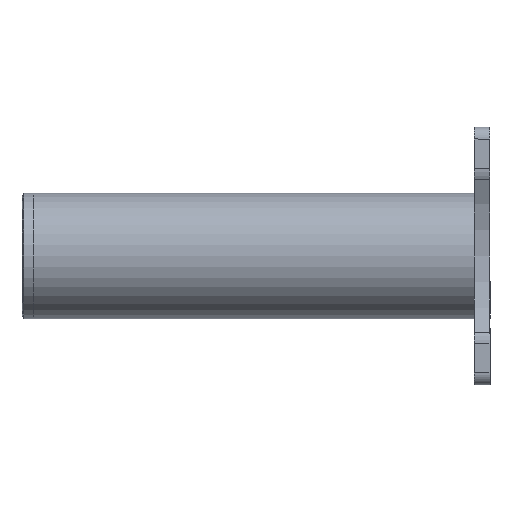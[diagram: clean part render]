
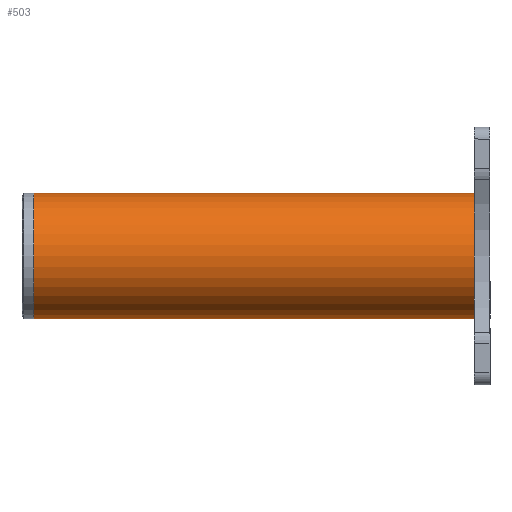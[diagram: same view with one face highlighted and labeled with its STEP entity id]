
A CAD part, left-side view. The second image highlights one B-rep face of the part: STEP entity #503.
In plain terms, the highlighted cylindrical face has radius 50.8 mm (diameter 101.6 mm), a full revolution.
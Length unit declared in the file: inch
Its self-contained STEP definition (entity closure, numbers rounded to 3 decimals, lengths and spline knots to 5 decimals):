
#102 = DIRECTION ( 'NONE',  ( -1., 0., 0. ) ) ;
#187 = ORIENTED_EDGE ( 'NONE', *, *, #969, .F. ) ;
#289 = CARTESIAN_POINT ( 'NONE',  ( 2., 0., 14.5 ) ) ;
#306 = CYLINDRICAL_SURFACE ( 'NONE', #1818, 2. ) ;
#388 = CIRCLE ( 'NONE', #1583, 2. ) ;
#389 = DIRECTION ( 'NONE',  ( 0., 0., 1. ) ) ;
#438 = DIRECTION ( 'NONE',  ( 1., 0., 0. ) ) ;
#503 = ADVANCED_FACE ( 'NONE', ( #1060, #1724 ), #306, .T. ) ;
#601 = EDGE_CURVE ( 'NONE', #1560, #1560, #388, .T. ) ;
#653 = EDGE_LOOP ( 'NONE', ( #972 ) ) ;
#781 = CIRCLE ( 'NONE', #1225, 2. ) ;
#911 = VERTEX_POINT ( 'NONE', #289 ) ;
#969 = EDGE_CURVE ( 'NONE', #911, #911, #781, .T. ) ;
#972 = ORIENTED_EDGE ( 'NONE', *, *, #601, .T. ) ;
#1060 = FACE_OUTER_BOUND ( 'NONE', #1289, .T. ) ;
#1225 = AXIS2_PLACEMENT_3D ( 'NONE', #1834, #389, #1700 ) ;
#1248 = DIRECTION ( 'NONE',  ( 0., 0., 1. ) ) ;
#1289 = EDGE_LOOP ( 'NONE', ( #187 ) ) ;
#1415 = CARTESIAN_POINT ( 'NONE',  ( 2., 0., 0. ) ) ;
#1433 = DIRECTION ( 'NONE',  ( 0., 0., -1. ) ) ;
#1560 = VERTEX_POINT ( 'NONE', #1415 ) ;
#1583 = AXIS2_PLACEMENT_3D ( 'NONE', #1747, #1248, #438 ) ;
#1700 = DIRECTION ( 'NONE',  ( 1., 0., 0. ) ) ;
#1724 = FACE_OUTER_BOUND ( 'NONE', #653, .T. ) ;
#1747 = CARTESIAN_POINT ( 'NONE',  ( 0., 0., 0. ) ) ;
#1818 = AXIS2_PLACEMENT_3D ( 'NONE', #2065, #1433, #102 ) ;
#1834 = CARTESIAN_POINT ( 'NONE',  ( 0., 0., 14.5 ) ) ;
#2065 = CARTESIAN_POINT ( 'NONE',  ( 0., 0., 14.5 ) ) ;
